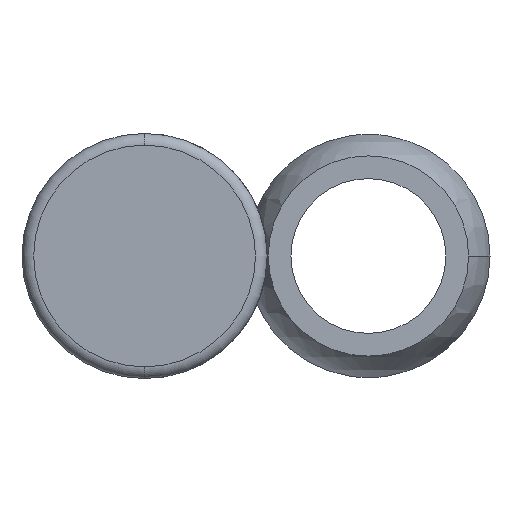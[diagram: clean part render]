
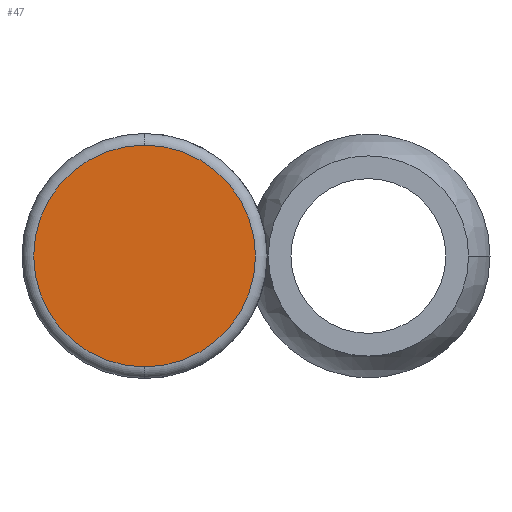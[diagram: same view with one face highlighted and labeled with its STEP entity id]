
A CAD part, front view. The second image highlights one B-rep face of the part: STEP entity #47.
In plain terms, the highlighted planar face has unit normal (0, -1, 0).
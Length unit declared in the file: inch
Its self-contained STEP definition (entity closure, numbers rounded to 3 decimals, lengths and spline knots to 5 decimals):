
#47 = ADVANCED_FACE ( 'NONE', ( #710 ), #1187, .F. ) ;
#48 = DIRECTION ( 'NONE',  ( 0., -1., 0. ) ) ;
#376 = CARTESIAN_POINT ( 'NONE',  ( 0., -1.063, 0. ) ) ;
#412 = CARTESIAN_POINT ( 'NONE',  ( 0., -1.063, -0.28496 ) ) ;
#431 = VERTEX_POINT ( 'NONE', #412 ) ;
#461 = DIRECTION ( 'NONE',  ( 0., 0., 1. ) ) ;
#497 = ORIENTED_EDGE ( 'NONE', *, *, #741, .T. ) ;
#533 = VERTEX_POINT ( 'NONE', #557 ) ;
#551 = EDGE_CURVE ( 'NONE', #431, #533, #1188, .T. ) ;
#554 = CARTESIAN_POINT ( 'NONE',  ( 0., -1.063, 0. ) ) ;
#557 = CARTESIAN_POINT ( 'NONE',  ( 0., -1.063, 0.28496 ) ) ;
#559 = DIRECTION ( 'NONE',  ( 0., 1., 0. ) ) ;
#567 = DIRECTION ( 'NONE',  ( 0., 0., 1. ) ) ;
#582 = ORIENTED_EDGE ( 'NONE', *, *, #551, .T. ) ;
#588 = AXIS2_PLACEMENT_3D ( 'NONE', #554, #559, #567 ) ;
#689 = CIRCLE ( 'NONE', #718, 0.28496 ) ;
#710 = FACE_OUTER_BOUND ( 'NONE', #948, .T. ) ;
#711 = DIRECTION ( 'NONE',  ( 0., 0., 1. ) ) ;
#718 = AXIS2_PLACEMENT_3D ( 'NONE', #376, #1020, #711 ) ;
#741 = EDGE_CURVE ( 'NONE', #533, #431, #689, .T. ) ;
#873 = AXIS2_PLACEMENT_3D ( 'NONE', #1309, #48, #461 ) ;
#948 = EDGE_LOOP ( 'NONE', ( #497, #582 ) ) ;
#1020 = DIRECTION ( 'NONE',  ( 0., -1., 0. ) ) ;
#1187 = PLANE ( 'NONE',  #588 ) ;
#1188 = CIRCLE ( 'NONE', #873, 0.28496 ) ;
#1309 = CARTESIAN_POINT ( 'NONE',  ( 0., -1.063, 0. ) ) ;
